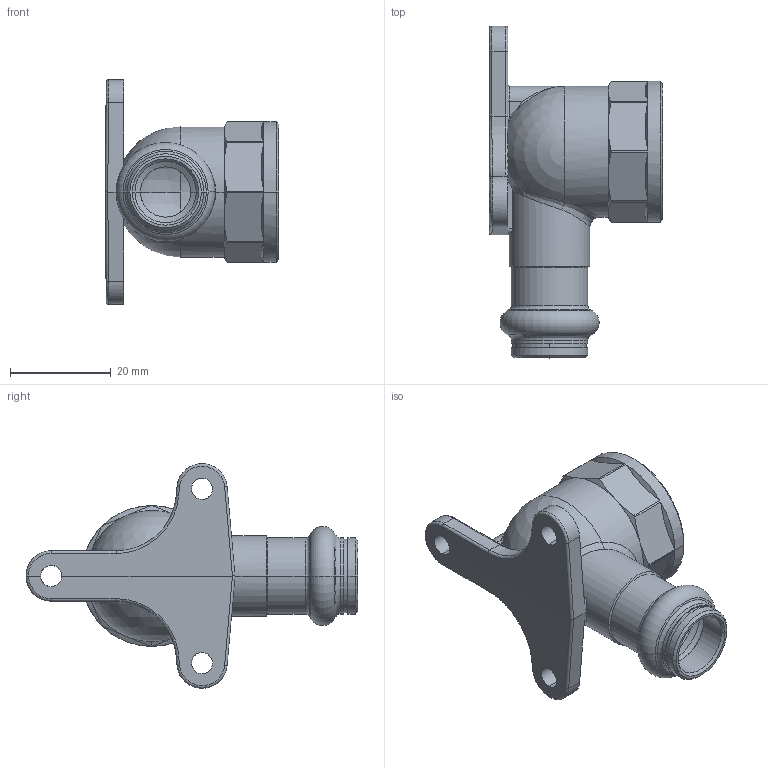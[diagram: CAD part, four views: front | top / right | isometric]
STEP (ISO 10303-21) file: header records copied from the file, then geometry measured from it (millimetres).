
FILE_DESCRIPTION (( 'STEP AP203' ), '1' );
FILE_NAME ('SP4471G Ø12 1-2.STEP', '2017-04-28T08:29:36', ( '' ), ( '' ), 'SwSTEP 2.0', 'SolidWorks 2016', '' );
FILE_SCHEMA (( 'CONFIG_CONTROL_DESIGN' ));
Length unit declared in the file: millimetre
Products named in the file (1): SP4471G Ø12 1-2
Bounding box: 34.5 x 66 x 44.63 mm (x, y, z)
Volume: 12576.4 mm3; surface area: 9426.7 mm2
Topology: 1 solids, 1 shells, 153 faces, 375 edges, 220 vertices
Faces by surface type: cylinder 49, cone 41, plane 28, torus 18, bspline 13, sphere 4
Entity records: 5753 total; most frequent: CARTESIAN_POINT 2232, ORIENTED_EDGE 734, DIRECTION 733, EDGE_CURVE 367, AXIS2_PLACEMENT_3D 308, VERTEX_POINT 218, CIRCLE 167, EDGE_LOOP 163
